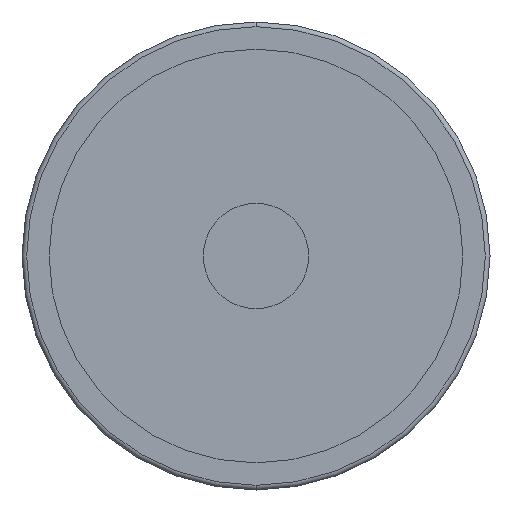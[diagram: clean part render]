
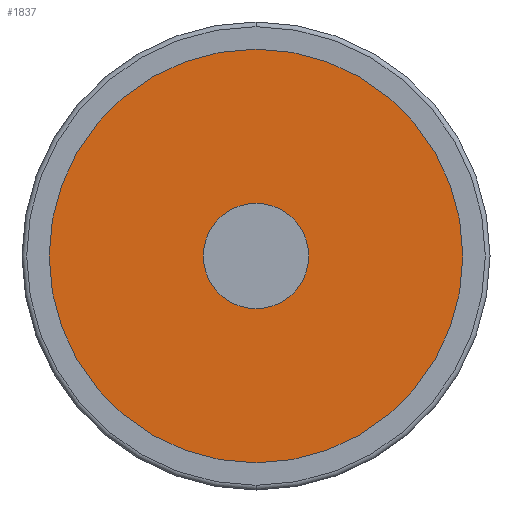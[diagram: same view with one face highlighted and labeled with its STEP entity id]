
A CAD part, front view. The second image highlights one B-rep face of the part: STEP entity #1837.
In plain terms, the highlighted planar face has unit normal (0, -1, 0).
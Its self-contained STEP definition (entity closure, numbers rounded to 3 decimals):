
#26 = DIRECTION ( 'NONE',  ( 0., -1., 0. ) ) ;
#47 = AXIS2_PLACEMENT_3D ( 'NONE', #1080, #1842, #2214 ) ;
#54 = CARTESIAN_POINT ( 'NONE',  ( 10.25, 4.5, 0. ) ) ;
#67 = EDGE_LOOP ( 'NONE', ( #162, #1356 ) ) ;
#98 = EDGE_CURVE ( 'NONE', #577, #2213, #210, .T. ) ;
#145 = ORIENTED_EDGE ( 'NONE', *, *, #700, .F. ) ;
#162 = ORIENTED_EDGE ( 'NONE', *, *, #1214, .T. ) ;
#176 = AXIS2_PLACEMENT_3D ( 'NONE', #1138, #26, #767 ) ;
#210 = CIRCLE ( 'NONE', #1898, 10.25 ) ;
#237 = VERTEX_POINT ( 'NONE', #819 ) ;
#410 = CARTESIAN_POINT ( 'NONE',  ( 0., 4.5, 0. ) ) ;
#497 = CARTESIAN_POINT ( 'NONE',  ( -10.25, 4.5, 0. ) ) ;
#537 = CARTESIAN_POINT ( 'NONE',  ( 44.3, 4.5, 0. ) ) ;
#577 = VERTEX_POINT ( 'NONE', #54 ) ;
#606 = CIRCLE ( 'NONE', #2116, 44.3 ) ;
#700 = EDGE_CURVE ( 'NONE', #2213, #577, #2182, .T. ) ;
#767 = DIRECTION ( 'NONE',  ( 1., 0., 0. ) ) ;
#819 = CARTESIAN_POINT ( 'NONE',  ( -44.3, 4.5, 0. ) ) ;
#913 = EDGE_LOOP ( 'NONE', ( #1961, #145 ) ) ;
#1001 = DIRECTION ( 'NONE',  ( 0., -1., 0. ) ) ;
#1080 = CARTESIAN_POINT ( 'NONE',  ( -44.3, 4.5, 0. ) ) ;
#1093 = AXIS2_PLACEMENT_3D ( 'NONE', #2069, #1446, #1641 ) ;
#1138 = CARTESIAN_POINT ( 'NONE',  ( 0., 4.5, 0. ) ) ;
#1145 = DIRECTION ( 'NONE',  ( 1., 0., 0. ) ) ;
#1156 = VERTEX_POINT ( 'NONE', #537 ) ;
#1214 = EDGE_CURVE ( 'NONE', #237, #1156, #2378, .T. ) ;
#1303 = CARTESIAN_POINT ( 'NONE',  ( 0., 4.5, 0. ) ) ;
#1356 = ORIENTED_EDGE ( 'NONE', *, *, #1958, .T. ) ;
#1392 = DIRECTION ( 'NONE',  ( 1., 0., 0. ) ) ;
#1446 = DIRECTION ( 'NONE',  ( 0., -1., 0. ) ) ;
#1522 = DIRECTION ( 'NONE',  ( 0., -1., 0. ) ) ;
#1641 = DIRECTION ( 'NONE',  ( 1., 0., 0. ) ) ;
#1837 = ADVANCED_FACE ( 'NONE', ( #2012, #2399 ), #2228, .T. ) ;
#1842 = DIRECTION ( 'NONE',  ( 0., -1., 0. ) ) ;
#1898 = AXIS2_PLACEMENT_3D ( 'NONE', #410, #1001, #1392 ) ;
#1958 = EDGE_CURVE ( 'NONE', #1156, #237, #606, .T. ) ;
#1961 = ORIENTED_EDGE ( 'NONE', *, *, #98, .F. ) ;
#2012 = FACE_OUTER_BOUND ( 'NONE', #67, .T. ) ;
#2069 = CARTESIAN_POINT ( 'NONE',  ( 0., 4.5, 0. ) ) ;
#2116 = AXIS2_PLACEMENT_3D ( 'NONE', #1303, #1522, #1145 ) ;
#2182 = CIRCLE ( 'NONE', #1093, 10.25 ) ;
#2213 = VERTEX_POINT ( 'NONE', #497 ) ;
#2214 = DIRECTION ( 'NONE',  ( 1., 0., 0. ) ) ;
#2228 = PLANE ( 'NONE',  #47 ) ;
#2378 = CIRCLE ( 'NONE', #176, 44.3 ) ;
#2399 = FACE_BOUND ( 'NONE', #913, .T. ) ;
